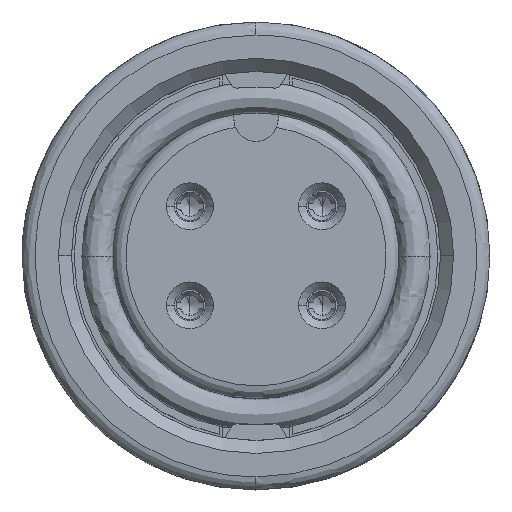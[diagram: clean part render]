
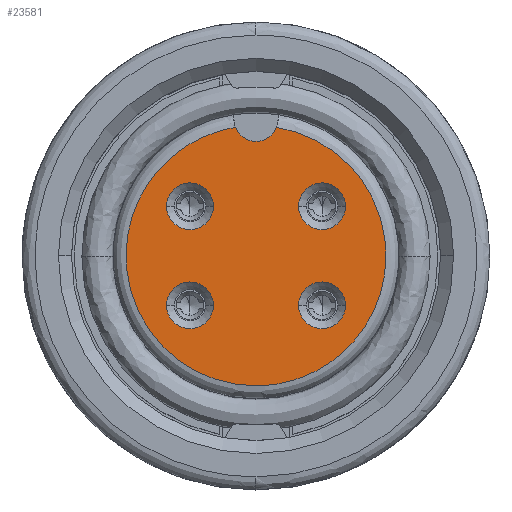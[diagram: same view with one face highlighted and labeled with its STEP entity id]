
A CAD part, top view. The second image highlights one B-rep face of the part: STEP entity #23581.
In plain terms, the highlighted planar face has unit normal (0, 0, 1).
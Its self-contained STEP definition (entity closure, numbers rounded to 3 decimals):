
#404 = DIRECTION ( 'NONE',  ( 1., 0., 0. ) ) ;
#485 = ORIENTED_EDGE ( 'NONE', *, *, #24776, .F. ) ;
#1020 = VERTEX_POINT ( 'NONE', #4962 ) ;
#1047 = DIRECTION ( 'NONE',  ( 0., 0., -1. ) ) ;
#1463 = AXIS2_PLACEMENT_3D ( 'NONE', #10946, #8890, #9204 ) ;
#2100 = CARTESIAN_POINT ( 'NONE',  ( -1.64, -1.905, 0. ) ) ;
#2205 = CARTESIAN_POINT ( 'NONE',  ( 0.79, 4.937, 0. ) ) ;
#2472 = AXIS2_PLACEMENT_3D ( 'NONE', #12865, #1047, #20140 ) ;
#2520 = EDGE_CURVE ( 'NONE', #12590, #7621, #15052, .T. ) ;
#2767 = AXIS2_PLACEMENT_3D ( 'NONE', #24520, #19645, #8104 ) ;
#3058 = CARTESIAN_POINT ( 'NONE',  ( -2.54, -1.905, 0. ) ) ;
#3331 = ORIENTED_EDGE ( 'NONE', *, *, #19310, .T. ) ;
#3377 = CIRCLE ( 'NONE', #15482, 0.9 ) ;
#4334 = FACE_OUTER_BOUND ( 'NONE', #23939, .T. ) ;
#4832 = EDGE_LOOP ( 'NONE', ( #25818, #30483 ) ) ;
#4856 = AXIS2_PLACEMENT_3D ( 'NONE', #26677, #14685, #13403 ) ;
#4962 = CARTESIAN_POINT ( 'NONE',  ( -3.44, -1.905, 0. ) ) ;
#5143 = ORIENTED_EDGE ( 'NONE', *, *, #10892, .T. ) ;
#5200 = CARTESIAN_POINT ( 'NONE',  ( -1.64, 1.905, 0. ) ) ;
#5232 = CARTESIAN_POINT ( 'NONE',  ( 1.64, -1.905, 0. ) ) ;
#5324 = EDGE_LOOP ( 'NONE', ( #30731, #29842 ) ) ;
#5745 = CARTESIAN_POINT ( 'NONE',  ( 2.54, -1.905, 0. ) ) ;
#6046 = EDGE_LOOP ( 'NONE', ( #5143, #9768 ) ) ;
#6627 = VERTEX_POINT ( 'NONE', #11446 ) ;
#7119 =( BOUNDED_CURVE ( )  B_SPLINE_CURVE ( 3, ( #2205, #11538, #13882, #22199 ),
 .UNSPECIFIED., .F., .T. ) 
 B_SPLINE_CURVE_WITH_KNOTS ( ( 4, 4 ),
 ( 0., 1. ),
 .UNSPECIFIED. ) 
 CURVE ( )  GEOMETRIC_REPRESENTATION_ITEM ( )  RATIONAL_B_SPLINE_CURVE ( ( 1., 0.382, 0.382, 1. ) ) 
 REPRESENTATION_ITEM ( '' )  );
#7466 = CARTESIAN_POINT ( 'NONE',  ( 0.79, 4.937, 0. ) ) ;
#7621 = VERTEX_POINT ( 'NONE', #12115 ) ;
#8104 = DIRECTION ( 'NONE',  ( 1., 0., 0. ) ) ;
#8352 = CARTESIAN_POINT ( 'NONE',  ( -8.571, -4.896, 0. ) ) ;
#8360 = CIRCLE ( 'NONE', #4856, 0.9 ) ;
#8480 = AXIS2_PLACEMENT_3D ( 'NONE', #5745, #22631, #404 ) ;
#8590 = CARTESIAN_POINT ( 'NONE',  ( 2.54, 1.905, 0. ) ) ;
#8878 = ORIENTED_EDGE ( 'NONE', *, *, #12201, .F. ) ;
#8881 = EDGE_CURVE ( 'NONE', #12386, #28658, #22086, .T. ) ;
#8890 = DIRECTION ( 'NONE',  ( 0., 0., -1. ) ) ;
#8903 = DIRECTION ( 'NONE',  ( 1., 0., 0. ) ) ;
#9204 = DIRECTION ( 'NONE',  ( 1., 0., 0. ) ) ;
#9329 = ORIENTED_EDGE ( 'NONE', *, *, #2520, .T. ) ;
#9551 = FACE_BOUND ( 'NONE', #25852, .T. ) ;
#9768 = ORIENTED_EDGE ( 'NONE', *, *, #10670, .T. ) ;
#10670 = EDGE_CURVE ( 'NONE', #22389, #6627, #25950, .T. ) ;
#10790 = DIRECTION ( 'NONE',  ( 0., 0., -1. ) ) ;
#10892 = EDGE_CURVE ( 'NONE', #6627, #22389, #26955, .T. ) ;
#10946 = CARTESIAN_POINT ( 'NONE',  ( 0., 5.25, 0. ) ) ;
#11446 = CARTESIAN_POINT ( 'NONE',  ( 1.64, 1.905, 0. ) ) ;
#11474 = CARTESIAN_POINT ( 'NONE',  ( -0.061, -5., 0. ) ) ;
#11538 = CARTESIAN_POINT ( 'NONE',  ( 9.38, 3.562, 0. ) ) ;
#12115 = CARTESIAN_POINT ( 'NONE',  ( -0.79, 4.937, 0. ) ) ;
#12201 = EDGE_CURVE ( 'NONE', #24656, #7621, #28299, .T. ) ;
#12386 = VERTEX_POINT ( 'NONE', #18095 ) ;
#12459 = ORIENTED_EDGE ( 'NONE', *, *, #24024, .T. ) ;
#12590 = VERTEX_POINT ( 'NONE', #7466 ) ;
#12865 = CARTESIAN_POINT ( 'NONE',  ( -2.54, 1.905, 0. ) ) ;
#13093 = EDGE_CURVE ( 'NONE', #18270, #1020, #8360, .T. ) ;
#13403 = DIRECTION ( 'NONE',  ( 1., 0., 0. ) ) ;
#13647 = DIRECTION ( 'NONE',  ( 0., 0., 1. ) ) ;
#13851 = AXIS2_PLACEMENT_3D ( 'NONE', #8590, #10790, #8903 ) ;
#13882 = CARTESIAN_POINT ( 'NONE',  ( 8.638, -5.106, 0. ) ) ;
#13948 = PLANE ( 'NONE',  #21546 ) ;
#14255 = FACE_BOUND ( 'NONE', #6046, .T. ) ;
#14685 = DIRECTION ( 'NONE',  ( 0., 0., -1. ) ) ;
#15052 = CIRCLE ( 'NONE', #1463, 0.85 ) ;
#15482 = AXIS2_PLACEMENT_3D ( 'NONE', #29357, #21771, #24124 ) ;
#16342 = FACE_BOUND ( 'NONE', #5324, .T. ) ;
#17578 = EDGE_CURVE ( 'NONE', #28658, #12386, #20650, .T. ) ;
#18095 = CARTESIAN_POINT ( 'NONE',  ( 3.44, -1.905, 0. ) ) ;
#18270 = VERTEX_POINT ( 'NONE', #2100 ) ;
#18832 = VERTEX_POINT ( 'NONE', #20490 ) ;
#18851 = CARTESIAN_POINT ( 'NONE',  ( 0.001, -0.031, 0. ) ) ;
#19185 = DIRECTION ( 'NONE',  ( 0., 0., -1. ) ) ;
#19310 = EDGE_CURVE ( 'NONE', #30020, #18832, #25656, .T. ) ;
#19630 = EDGE_CURVE ( 'NONE', #1020, #18270, #28722, .T. ) ;
#19645 = DIRECTION ( 'NONE',  ( 0., 0., -1. ) ) ;
#19944 = DIRECTION ( 'NONE',  ( 0., 0., -1. ) ) ;
#20140 = DIRECTION ( 'NONE',  ( 1., 0., 0. ) ) ;
#20253 = DIRECTION ( 'NONE',  ( 1., 0., 0. ) ) ;
#20490 = CARTESIAN_POINT ( 'NONE',  ( -3.44, 1.905, 0. ) ) ;
#20650 = CIRCLE ( 'NONE', #30760, 0.9 ) ;
#21546 = AXIS2_PLACEMENT_3D ( 'NONE', #18851, #13647, #23873 ) ;
#21771 = DIRECTION ( 'NONE',  ( 0., 0., -1. ) ) ;
#22086 = CIRCLE ( 'NONE', #8480, 0.9 ) ;
#22199 = CARTESIAN_POINT ( 'NONE',  ( -0.061, -5., 0. ) ) ;
#22389 = VERTEX_POINT ( 'NONE', #29874 ) ;
#22631 = DIRECTION ( 'NONE',  ( 0., 0., -1. ) ) ;
#23581 = ADVANCED_FACE ( 'NONE', ( #16342, #31170, #9551, #14255, #4334 ), #13948, .T. ) ;
#23597 = CARTESIAN_POINT ( 'NONE',  ( -0.79, 4.937, 0. ) ) ;
#23873 = DIRECTION ( 'NONE',  ( 1., 0., 0. ) ) ;
#23939 = EDGE_LOOP ( 'NONE', ( #485, #9329, #8878 ) ) ;
#24024 = EDGE_CURVE ( 'NONE', #18832, #30020, #3377, .T. ) ;
#24054 = CARTESIAN_POINT ( 'NONE',  ( 2.54, -1.905, 0. ) ) ;
#24124 = DIRECTION ( 'NONE',  ( 1., 0., 0. ) ) ;
#24520 = CARTESIAN_POINT ( 'NONE',  ( 2.54, 1.905, 0. ) ) ;
#24656 = VERTEX_POINT ( 'NONE', #25093 ) ;
#24776 = EDGE_CURVE ( 'NONE', #12590, #24656, #7119, .T. ) ;
#25093 = CARTESIAN_POINT ( 'NONE',  ( -0.061, -5., 0. ) ) ;
#25656 = CIRCLE ( 'NONE', #2472, 0.9 ) ;
#25818 = ORIENTED_EDGE ( 'NONE', *, *, #17578, .T. ) ;
#25852 = EDGE_LOOP ( 'NONE', ( #12459, #3331 ) ) ;
#25950 = CIRCLE ( 'NONE', #2767, 0.9 ) ;
#26284 = DIRECTION ( 'NONE',  ( 1., 0., 0. ) ) ;
#26677 = CARTESIAN_POINT ( 'NONE',  ( -2.54, -1.905, 0. ) ) ;
#26955 = CIRCLE ( 'NONE', #13851, 0.9 ) ;
#28299 =( BOUNDED_CURVE ( )  B_SPLINE_CURVE ( 3, ( #11474, #8352, #28509, #23597 ),
 .UNSPECIFIED., .F., .T. ) 
 B_SPLINE_CURVE_WITH_KNOTS ( ( 4, 4 ),
 ( 0., 1. ),
 .UNSPECIFIED. ) 
 CURVE ( )  GEOMETRIC_REPRESENTATION_ITEM ( )  RATIONAL_B_SPLINE_CURVE ( ( 1., 0.39, 0.39, 1. ) ) 
 REPRESENTATION_ITEM ( '' )  );
#28509 = CARTESIAN_POINT ( 'NONE',  ( -9.194, 3.592, 0. ) ) ;
#28658 = VERTEX_POINT ( 'NONE', #5232 ) ;
#28722 = CIRCLE ( 'NONE', #30234, 0.9 ) ;
#29357 = CARTESIAN_POINT ( 'NONE',  ( -2.54, 1.905, 0. ) ) ;
#29842 = ORIENTED_EDGE ( 'NONE', *, *, #13093, .T. ) ;
#29874 = CARTESIAN_POINT ( 'NONE',  ( 3.44, 1.905, 0. ) ) ;
#30020 = VERTEX_POINT ( 'NONE', #5200 ) ;
#30234 = AXIS2_PLACEMENT_3D ( 'NONE', #3058, #19944, #20253 ) ;
#30483 = ORIENTED_EDGE ( 'NONE', *, *, #8881, .T. ) ;
#30731 = ORIENTED_EDGE ( 'NONE', *, *, #19630, .T. ) ;
#30760 = AXIS2_PLACEMENT_3D ( 'NONE', #24054, #19185, #26284 ) ;
#31170 = FACE_BOUND ( 'NONE', #4832, .T. ) ;
